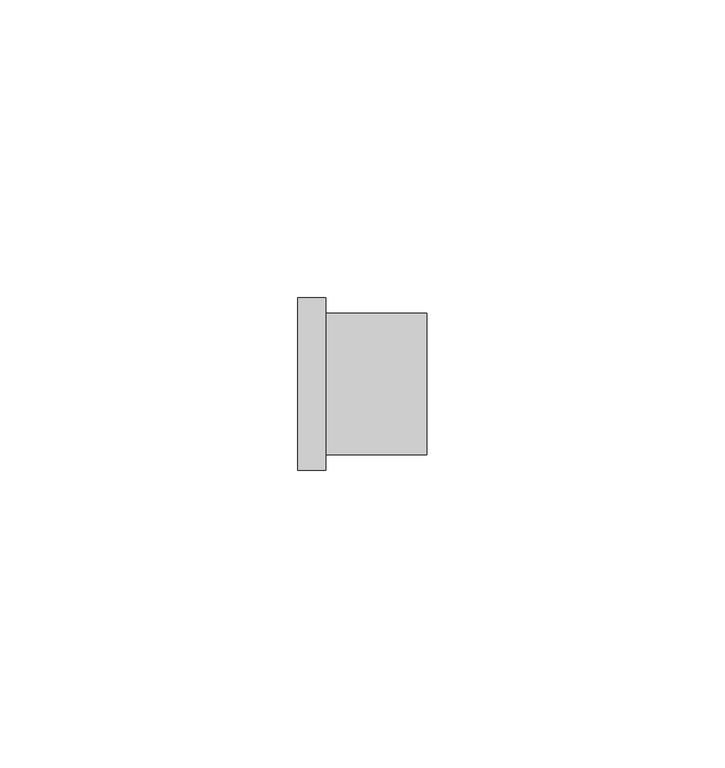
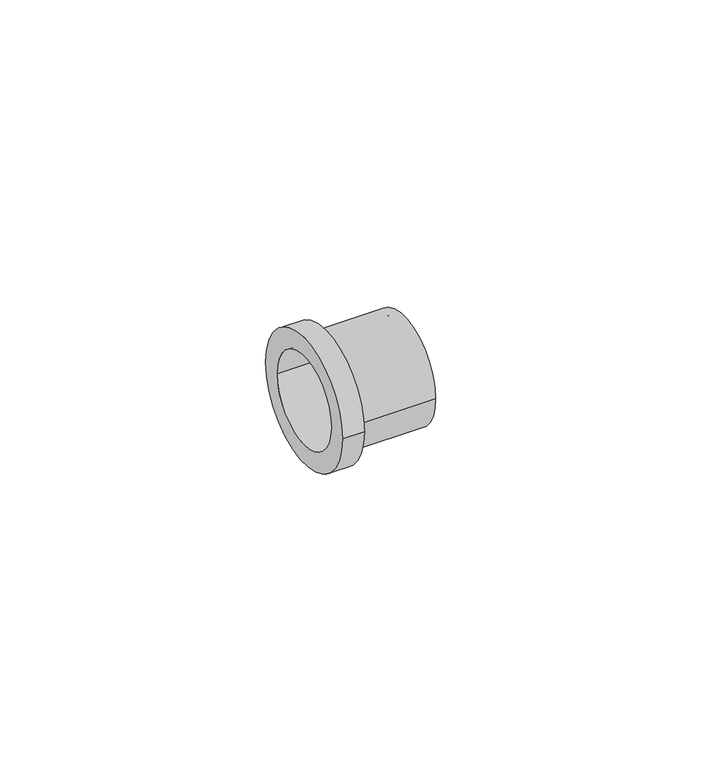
"""IFC4 building model written with IfcOpenShell, lengths in millimetres: pipe fitting geometry, FASTLOC_Sleeve outside : FSL S O DN1."""

from ifc_helpers import new_model, si_unit, frame, origin, place, context, project, spatial, polyline, circle_curve, source, transform, mapped, element, save
from ifc_brep_helpers import plane_surface, cylinder_surface, revolved_surface, advanced_brep


def pipe_fitting_53f43fdb(model_context):
    return source(origin(), model_context, "Body", "AdvancedBrep", [
        advanced_brep(
        [(4.7, 14.5, 0.0), (4.7, -14.5, 0.0), (0.0, -14.5, 0.0), (0.0, 14.5, 0.0), (21.7, 11.85, 0.0), (21.7, -11.85, 0.0), (4.7, -11.85, 0.0), (4.7, 11.85, 0.0), (0.0, 10.15, 0.0), (0.0, -10.15, 0.0), (21.7, -10.15, 0.0), (21.7, 10.15, 0.0)],
        [
            (0, 1, circle_curve(frame((4.7, 0.0, 0.0), z_axis=(-1.0, 0.0, 0.0), x_axis=(0.0, -1.0, 0.0)), 14.5)),
            (1, 2),
            (2, 3, circle_curve(frame((0.0, 0.0, 0.0), z_axis=(1.0, 0.0, 0.0), x_axis=(0.0, -1.0, 0.0)), 14.5)),
            (3, 0),
            (4, 5, circle_curve(frame((21.7, 0.0, 0.0), z_axis=(-1.0, 0.0, 0.0), x_axis=(0.0, -1.0, 0.0)), 11.85)),
            (5, 6),
            (6, 7, circle_curve(frame((4.7, 0.0, 0.0), z_axis=(1.0, 0.0, 0.0), x_axis=(0.0, -1.0, 0.0)), 11.85)),
            (7, 4),
            (8, 9, circle_curve(frame((0.0, 0.0, 0.0), z_axis=(-1.0, 0.0, 0.0), x_axis=(0.0, -1.0, 0.0)), 10.15)),
            (9, 10),
            (10, 11, circle_curve(frame((21.7, 0.0, 0.0), z_axis=(1.0, 0.0, 0.0), x_axis=(0.0, -1.0, 0.0)), 10.15)),
            (11, 8),
            (1, 0, circle_curve(frame((4.7, 0.0, 0.0), z_axis=(-1.0, 0.0, 0.0), x_axis=(0.0, 1.0, 0.0)), 14.5)),
            (3, 2, circle_curve(frame((0.0, 0.0, 0.0), z_axis=(1.0, 0.0, 0.0), x_axis=(0.0, 1.0, 0.0)), 14.5)),
            (6, 7, circle_curve(frame((4.7, 0.0, 0.0), z_axis=(-1.0, 0.0, 0.0), x_axis=(0.0, 1.0, 0.0)), 11.85)),
            (5, 4, circle_curve(frame((21.7, 0.0, 0.0), z_axis=(-1.0, 0.0, 0.0), x_axis=(0.0, 1.0, 0.0)), 11.85)),
            (10, 11, circle_curve(frame((21.7, 0.0, 0.0), z_axis=(-1.0, 0.0, 0.0), x_axis=(0.0, 1.0, 0.0)), 10.15)),
            (9, 8, circle_curve(frame((0.0, 0.0, 0.0), z_axis=(-1.0, 0.0, 0.0), x_axis=(0.0, 1.0, 0.0)), 10.15)),
        ],
        [
            cylinder_surface(frame((0.0, 0.0, 0.0), z_axis=(1.0, 0.0, 0.0), x_axis=(0.0, -1.0, 0.0)), 14.5),
            cylinder_surface(frame((0.0, 0.0, 0.0), z_axis=(1.0, 0.0, 0.0), x_axis=(0.0, -1.0, 0.0)), 11.85),
            revolved_surface(polyline([(21.7, -10.15, 0.0), (0.0, -10.15, 0.0)]), (0.0, 0.0, 0.0), (1.0, 0.0, 0.0)),
            cylinder_surface(frame((0.0, 0.0, 0.0), z_axis=(1.0, 0.0, 0.0), x_axis=(0.0, 1.0, 0.0)), 14.5),
            plane_surface(frame((4.7, 0.0, 0.0), z_axis=(1.0, 0.0, 0.0), x_axis=(0.0, 1.0, 0.0))),
            cylinder_surface(frame((0.0, 0.0, 0.0), z_axis=(1.0, 0.0, 0.0), x_axis=(0.0, 1.0, 0.0)), 11.85),
            plane_surface(frame((21.7, 0.0, 0.0), z_axis=(1.0, 0.0, 0.0), x_axis=(0.0, 1.0, 0.0))),
            revolved_surface(polyline([(21.7, 10.15, 0.0), (0.0, 10.15, 0.0)]), (0.0, 0.0, 0.0), (1.0, 0.0, 0.0)),
            plane_surface(frame((0.0, 0.0, 0.0), z_axis=(-1.0, 0.0, 0.0), x_axis=(0.0, 1.0, 0.0))),
        ],
        [
            (0, [[1, 2, 3, 4]]),
            (1, [[5, 6, 7, 8]]),
            (2, [[9, 10, 11, 12]]),
            (3, [[13, -4, 14, -2]]),
            (4, [[-13, -1], [15, -7]]),
            (5, [[16, -8, -15, -6]]),
            (6, [[-16, -5], [17, -11]]),
            (7, [[18, -12, -17, -10]]),
            (8, [[-14, -3], [-18, -9]]),
        ],
    ),
    ])


if __name__ == "__main__":
    model = new_model("IFC4")
    model_context = context("Model", 3, world=origin())
    ifc_project = project(units=[si_unit("LENGTHUNIT", "METRE", prefix="MILLI")], contexts=[model_context])
    site = spatial("IfcSite", under=ifc_project)
    building = spatial("IfcBuilding", under=site)
    placement = place(None, origin())
    pipe_fitting_shape = pipe_fitting_53f43fdb(model_context)
    element("IfcPipeFitting", 1, ObjectType="FASTLOC_Sleeve outside : FSL S O DN1", at=placement, inside=building, context=model_context, shape_type="MappedRepresentation", body=[
        mapped(pipe_fitting_shape, transform((0.0, 0.0, 0.0), x_axis=(1.0, 0.0, 0.0), y_axis=(0.0, 1.0, 0.0), z_axis=(0.0, 0.0, 1.0))),
    ])
    save(model, "model.ifc")
